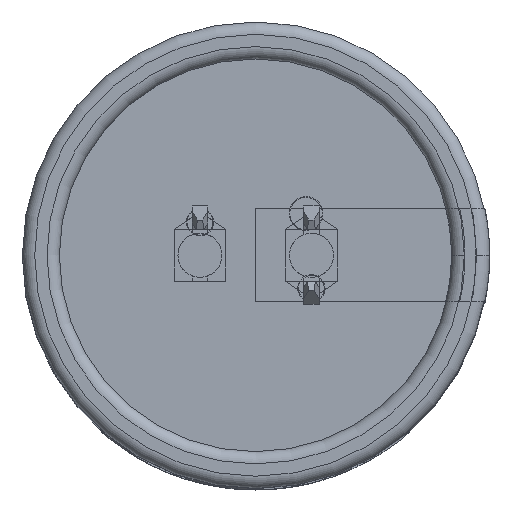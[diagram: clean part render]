
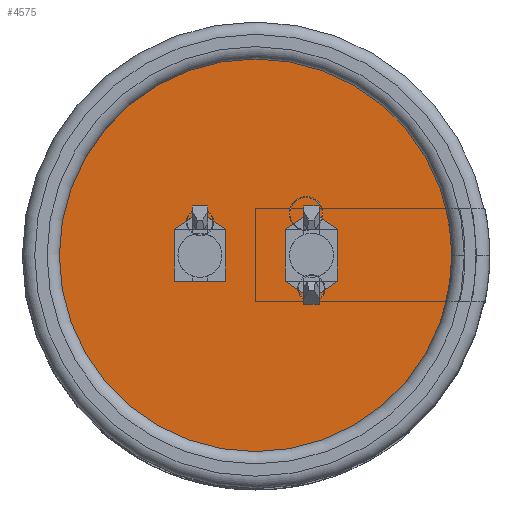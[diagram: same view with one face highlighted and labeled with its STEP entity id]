
A CAD part, top view. The second image highlights one B-rep face of the part: STEP entity #4575.
In plain terms, the highlighted planar face has unit normal (0, 0, 1).
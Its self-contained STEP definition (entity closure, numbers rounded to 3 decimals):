
#4482 = VERTEX_POINT('',#4483);
#4483 = CARTESIAN_POINT('',(15.15,0.,0.01));
#4490 = CYLINDRICAL_SURFACE('',#4491,15.15);
#4491 = AXIS2_PLACEMENT_3D('',#4492,#4493,#4494);
#4492 = CARTESIAN_POINT('',(0.,0.,0.));
#4493 = DIRECTION('',(0.,0.,-1.));
#4494 = DIRECTION('',(1.,0.,0.));
#4509 = EDGE_CURVE('',#4482,#4482,#4510,.T.);
#4510 = SURFACE_CURVE('',#4511,(#4516,#4523),.PCURVE_S1.);
#4511 = CIRCLE('',#4512,15.15);
#4512 = AXIS2_PLACEMENT_3D('',#4513,#4514,#4515);
#4513 = CARTESIAN_POINT('',(0.,0.,0.01));
#4514 = DIRECTION('',(0.,0.,1.));
#4515 = DIRECTION('',(1.,0.,0.));
#4516 = PCURVE('',#4490,#4517);
#4517 = DEFINITIONAL_REPRESENTATION('',(#4518),#4522);
#4518 = LINE('',#4519,#4520);
#4519 = CARTESIAN_POINT('',(0.,-0.01));
#4520 = VECTOR('',#4521,1.);
#4521 = DIRECTION('',(-1.,0.));
#4522 = ( GEOMETRIC_REPRESENTATION_CONTEXT(2) 
PARAMETRIC_REPRESENTATION_CONTEXT() REPRESENTATION_CONTEXT('2D SPACE',''
  ) );
#4523 = PCURVE('',#4524,#4529);
#4524 = PLANE('',#4525);
#4525 = AXIS2_PLACEMENT_3D('',#4526,#4527,#4528);
#4526 = CARTESIAN_POINT('',(15.15,0.,0.01));
#4527 = DIRECTION('',(0.,0.,-1.));
#4528 = DIRECTION('',(-1.,0.,0.));
#4529 = DEFINITIONAL_REPRESENTATION('',(#4530),#4538);
#4530 = ( BOUNDED_CURVE() B_SPLINE_CURVE(2,(#4531,#4532,#4533,#4534,
#4535,#4536,#4537),.UNSPECIFIED.,.F.,.F.) B_SPLINE_CURVE_WITH_KNOTS((1,2
    ,2,2,2,1),(-2.094,0.,2.094,4.189,
6.283,8.378),.UNSPECIFIED.) CURVE() 
GEOMETRIC_REPRESENTATION_ITEM() RATIONAL_B_SPLINE_CURVE((1.,0.5,1.,0.5,
1.,0.5,1.)) REPRESENTATION_ITEM('') );
#4531 = CARTESIAN_POINT('',(0.,0.));
#4532 = CARTESIAN_POINT('',(0.,26.241));
#4533 = CARTESIAN_POINT('',(22.725,13.12));
#4534 = CARTESIAN_POINT('',(45.45,0.));
#4535 = CARTESIAN_POINT('',(22.725,-13.12));
#4536 = CARTESIAN_POINT('',(0.,-26.241));
#4537 = CARTESIAN_POINT('',(0.,0.));
#4538 = ( GEOMETRIC_REPRESENTATION_CONTEXT(2) 
PARAMETRIC_REPRESENTATION_CONTEXT() REPRESENTATION_CONTEXT('2D SPACE',''
  ) );
#4575 = ADVANCED_FACE('',(#4576),#4524,.F.);
#4576 = FACE_BOUND('',#4577,.T.);
#4577 = EDGE_LOOP('',(#4578));
#4578 = ORIENTED_EDGE('',*,*,#4509,.T.);
